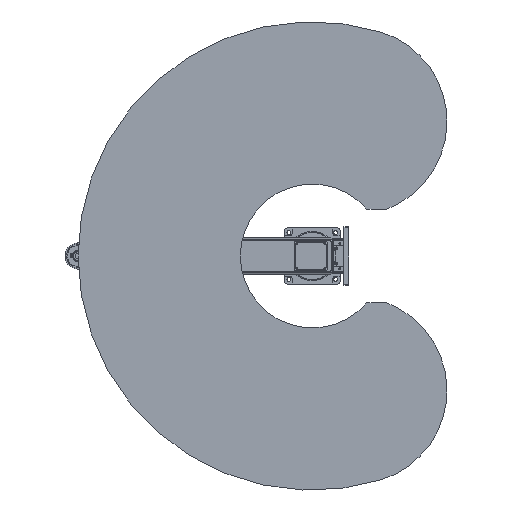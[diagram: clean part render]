
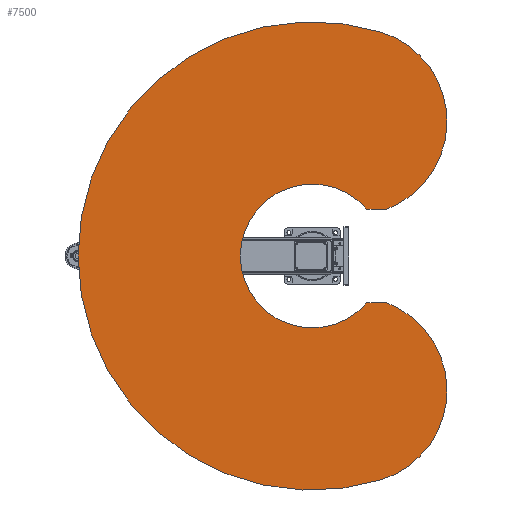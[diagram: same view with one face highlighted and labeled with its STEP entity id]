
A CAD part, front view. The second image highlights one B-rep face of the part: STEP entity #7500.
In plain terms, the highlighted planar face has unit normal (0, -1, 0).
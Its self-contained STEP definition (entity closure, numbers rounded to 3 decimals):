
#7500 = ADVANCED_FACE( '', ( #16181 ), #16182, .F. );
#16181 = FACE_OUTER_BOUND( '', #26337, .T. );
#16182 = PLANE( '', #26338 );
#26337 = EDGE_LOOP( '', ( #46777, #46778, #46779, #46780, #46781, #46782 ) );
#26338 = AXIS2_PLACEMENT_3D( '', #46783, #46784, #46785 );
#46777 = ORIENTED_EDGE( '', *, *, #53020, .F. );
#46778 = ORIENTED_EDGE( '', *, *, #55774, .F. );
#46779 = ORIENTED_EDGE( '', *, *, #55248, .T. );
#46780 = ORIENTED_EDGE( '', *, *, #56409, .F. );
#46781 = ORIENTED_EDGE( '', *, *, #54908, .F. );
#46782 = ORIENTED_EDGE( '', *, *, #55034, .F. );
#46783 = CARTESIAN_POINT( '', ( 573.783, 0., 175.423 ) );
#46784 = DIRECTION( '', ( 0., 1., 0. ) );
#46785 = DIRECTION( '', ( 0., 0., 1. ) );
#53020 = EDGE_CURVE( '', #64068, #64069, #64070, .T. );
#54908 = EDGE_CURVE( '', #66750, #66751, #66752, .T. );
#55034 = EDGE_CURVE( '', #64069, #66750, #66914, .T. );
#55248 = EDGE_CURVE( '', #67180, #67181, #67182, .T. );
#55774 = EDGE_CURVE( '', #67180, #64068, #67832, .T. );
#56409 = EDGE_CURVE( '', #66751, #67181, #68568, .T. );
#64068 = VERTEX_POINT( '', #80248 );
#64069 = VERTEX_POINT( '', #80249 );
#64070 = CIRCLE( '', #80250, 400. );
#66750 = VERTEX_POINT( '', #84796 );
#66751 = VERTEX_POINT( '', #84797 );
#66752 = CIRCLE( '', #84798, 400. );
#66914 = CIRCLE( '', #85034, 1000. );
#67180 = VERTEX_POINT( '', #85630 );
#67181 = VERTEX_POINT( '', #85631 );
#67182 = CIRCLE( '', #85632, 307. );
#67832 = LINE( '', #86762, #86763 );
#68568 = LINE( '', #88074, #88075 );
#80248 = CARTESIAN_POINT( '', ( 200., 0., 317.853 ) );
#80249 = CARTESIAN_POINT( '', ( 956.305, 0., 292.372 ) );
#80250 = AXIS2_PLACEMENT_3D( '', #94622, #94623, #94624 );
#84796 = CARTESIAN_POINT( '', ( -956.305, 0., 292.372 ) );
#84797 = CARTESIAN_POINT( '', ( -200., 0., 317.853 ) );
#84798 = AXIS2_PLACEMENT_3D( '', #96770, #96771, #96772 );
#85034 = AXIS2_PLACEMENT_3D( '', #96892, #96893, #96894 );
#85630 = CARTESIAN_POINT( '', ( 200., 0., 232.914 ) );
#85631 = CARTESIAN_POINT( '', ( -200., 0., 232.914 ) );
#85632 = AXIS2_PLACEMENT_3D( '', #97079, #97080, #97081 );
#86762 = CARTESIAN_POINT( '', ( 200., 0., 232.914 ) );
#86763 = VECTOR( '', #97599, 1000. );
#88074 = CARTESIAN_POINT( '', ( -200., 0., 317.853 ) );
#88075 = VECTOR( '', #98031, 1000. );
#94622 = CARTESIAN_POINT( '', ( 573.783, 0., 175.423 ) );
#94623 = DIRECTION( '', ( 0., 1., 0. ) );
#94624 = DIRECTION( '', ( 1., 0., 0. ) );
#96770 = CARTESIAN_POINT( '', ( -573.783, 0., 175.423 ) );
#96771 = DIRECTION( '', ( 0., 1., 0. ) );
#96772 = DIRECTION( '', ( 1., 0., 0. ) );
#96892 = CARTESIAN_POINT( '', ( 0., 0., 0. ) );
#96893 = DIRECTION( '', ( 0., 1., 0. ) );
#96894 = DIRECTION( '', ( 1., 0., 0. ) );
#97079 = CARTESIAN_POINT( '', ( 0., 0., 0. ) );
#97080 = DIRECTION( '', ( 0., 1., 0. ) );
#97081 = DIRECTION( '', ( 1., 0., 0. ) );
#97599 = DIRECTION( '', ( 0., 0., 1. ) );
#98031 = DIRECTION( '', ( 0., 0., -1. ) );
